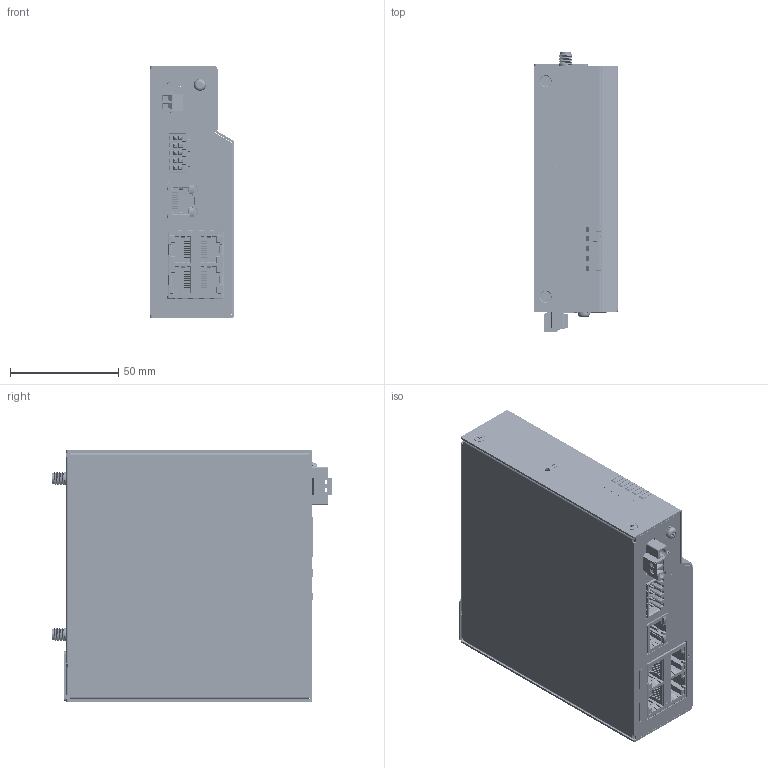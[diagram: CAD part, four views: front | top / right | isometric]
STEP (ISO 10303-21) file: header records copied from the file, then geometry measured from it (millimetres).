
FILE_DESCRIPTION (( 'STEP AP214' ), '1' );
FILE_NAME ('ICR-1645.STEP', '2024-10-01T01:30:18', ( '' ), ( '' ), 'SwSTEP 2.0', 'SolidWorks 2022', '' );
FILE_SCHEMA (( 'AUTOMOTIVE_DESIGN' ));
Length unit declared in the file: millimetre
Products named in the file (41): 1654014673-01-singleRJ1401-88UEXCRX00-20231227; 1652000984-20230908-1745-20231227_默认; 1990041438T000_FRAME; PRT0003_1_1_2.stp; 1960114863N000_plate OF lens; DEFAULT-2_1-20231227; 1960114865N000_PLATE FOR SIM CARD; PRT0002_1_1_2.stp; 1960116134T000_COVER_1745_cover_silk; 1960055896S000; con10304a_p01_asm.stp; CZT24H-052; 1600003018-01-20230908-1745-20231227_默认; 1990032849T000-LENS_WISE-7000; DEFAULT-1_1-20231227; 1653008935-01-1745-20231227_默认; PRT0004_1_1_2.stp; 90_1_1_2.stp; 1652002024_默认; DEFAULT-4_1-20231227; DEFAULT_1-20231227; PC LABEL-1745_TOP; PRT0005_1_1_2.stp; 1304006098-01-1745_默认; ICR-1645; assy_ICR-1745-20231218-20231227_assy-icr-1645; ASM0001_ASM_1_1_2_ASM.stp; 1935130610_默认; 1654002618-1745-20231227_默认; 1304006097-01-1745_默认; 1960116135T000_CHASSIS_1745_CHASSIS_1645; pcb_ICR-1745_20231218-20231227; 1652008392-01-dinkle_0156-2510-20230908-1745-20231227; DEFAULT-5_1-20231227; SIM5-06F1-KNM1-01 -1745-20231227; 193B020402_默认; con10304a_p01_asm-1745-20231227; 1931030520_默认; DEFAULT-3_1-20231227
Assembly tree (57 placements, depth 6):
  ICR-1645
    1960116135T000_CHASSIS_1745_CHASSIS_1645
    assy_ICR-1745-20231218-20231227_assy-icr-1645
      pcb_ICR-1745_20231218-20231227
      1652008392-01-dinkle_0156-2510-20230908-1745-20231227
      1652000984-20230908-1745-20231227_默认
      con10304a_p01_asm-1745-20231227  x2
        con10304a_p01_asm.stp
          ASM0001_ASM_1_1_2_ASM.stp
            90_1_1_2.stp
            PRT0002_1_1_2.stp
            PRT0003_1_1_2.stp
            PRT0004_1_1_2.stp
            PRT0005_1_1_2.stp
      SIM5-06F1-KNM1-01 -1745-20231227  x2
      1304006098-01-1745_默认  x2
      1304006097-01-1745_默认  x3
      1600003018-01-20230908-1745-20231227_默认
      1653008935-01-1745-20231227_默认  x3
      1654014673-01-singleRJ1401-88UEXCRX00-20231227
        DEFAULT-1_1-20231227
          DEFAULT_1-20231227
          DEFAULT-1_1-20231227
          DEFAULT-2_1-20231227
          DEFAULT-3_1-20231227
          DEFAULT_1-20231227
            DEFAULT-4_1-20231227
            DEFAULT-5_1-20231227
      CZT24H-052
      1654002618-1745-20231227_默认
      1960055896S000
    1960116134T000_COVER_1745_cover_silk
    1990032849T000-LENS_WISE-7000
    1960114865N000_PLATE FOR SIM CARD
    1935130610_默认
    1960114863N000_plate OF lens
    1931030520_默认  x6
    1990041438T000_FRAME
    1652002024_默认
    193B020402_默认  x6
    PC LABEL-1745_TOP
Bounding box: 39 x 129.1 x 116 mm (x, y, z)
Volume: 89747.6 mm3; surface area: 163696 mm2
Topology: 77 solids, 107 shells, 14708 faces, 40760 edges, 26381 vertices
Faces by surface type: plane 7758, bspline 3747, cylinder 3040, cone 104, torus 39, sphere 20
Entity records: 548609 total; most frequent: CARTESIAN_POINT 161098, ORIENTED_EDGE 70402, DIRECTION 50158, EDGE_CURVE 35234, VECTOR 23252, LINE 23252, VERTEX_POINT 22899, EDGE_LOOP 13735
